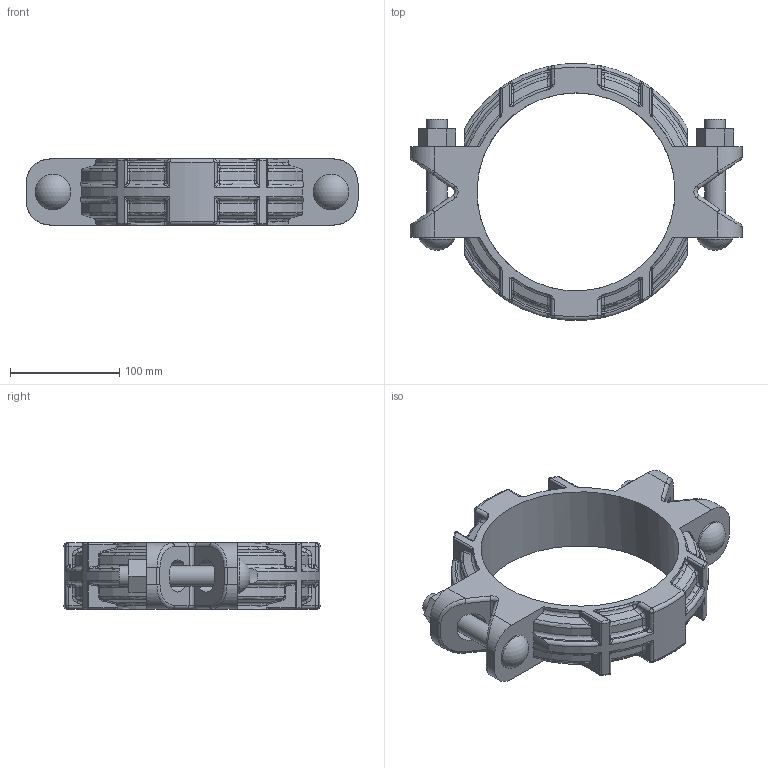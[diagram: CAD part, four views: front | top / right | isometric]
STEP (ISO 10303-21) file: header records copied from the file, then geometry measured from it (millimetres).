
FILE_DESCRIPTION(/* description */ ('VIC COUPLING STYLE XL 79','CAx-IF Rec.Pracs.---Representation and Presentation of Product Manufacturing Information (PMI)---4.0---2014-10-13'),/* implementation_level */ '2;1');
FILE_NAME(/* name */ 'C:\Users\kkamble\AppData\Roaming\Autodesk\ApplicationPlugins\Back Up\Victaulic_IPS-XL_Coupling_Style XL79 (XLG)\Victaulic_IPS-XL_Coupling_Style XL79 (XLG)_6 (150).stp',/* time_stamp */ '2020-08-05T13:49:55+05:00',/* author */ ('jheald'),/* organization */ ('Victaulic'),/* preprocessor_version */ 'ST-DEVELOPER v17.2',/* originating_system */ 'Autodesk Inventor 2019',/* authorisation */ '');
FILE_SCHEMA (('AP242_MANAGED_MODEL_BASED_3D_ENGINEERING_MIM_LF { 1 0 10303 442 1 1 4 }'));
Length unit declared in the file: inch
Products named in the file (1): XL79-06.0
Bounding box: 303.35 x 234.56 x 60.45 mm (x, y, z)
Volume: 1070127.5 mm3; surface area: 155026.7 mm2
Topology: 1 solids, 1 shells, 575 faces, 1383 edges, 792 vertices
Faces by surface type: cylinder 187, bspline 168, plane 82, torus 80, sphere 42, cone 16
Full cylindrical faces by diameter (mm): 19.05 x4, 32.537 x2, 180.975 x1
Entity records: 22950 total; most frequent: CARTESIAN_POINT 9965, ORIENTED_EDGE 2718, DIRECTION 2385, EDGE_CURVE 1359, AXIS2_PLACEMENT_3D 1001, VERTEX_POINT 792, EDGE_LOOP 591, STYLED_ITEM 577
